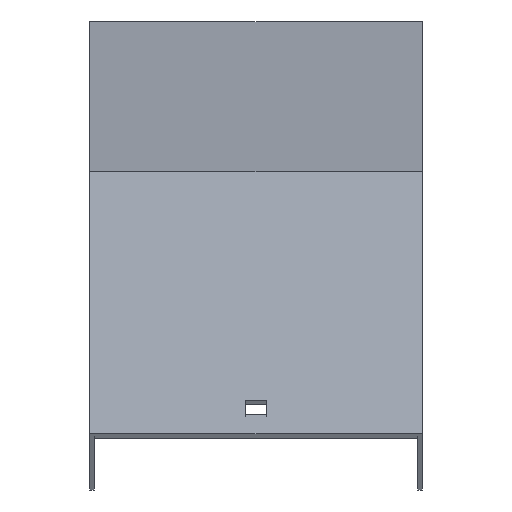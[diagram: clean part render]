
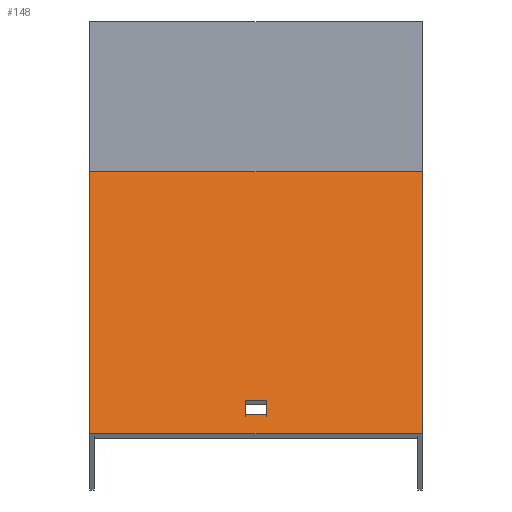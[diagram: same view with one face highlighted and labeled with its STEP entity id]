
A CAD part, top view. The second image highlights one B-rep face of the part: STEP entity #148.
In plain terms, the highlighted planar face has unit normal (0, 0.866, 0.5).
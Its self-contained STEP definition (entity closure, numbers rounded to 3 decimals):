
#7 = ORIENTED_EDGE ( 'NONE', *, *, #587, .T. ) ;
#32 = CARTESIAN_POINT ( 'NONE',  ( 3.25, -97.473, 459.415 ) ) ;
#36 = VECTOR ( 'NONE', #535, 1000. ) ;
#78 = CARTESIAN_POINT ( 'NONE',  ( 51.5, -26.656, 336.757 ) ) ;
#92 = LINE ( 'NONE', #818, #134 ) ;
#110 = EDGE_LOOP ( 'NONE', ( #7, #503, #305, #781 ) ) ;
#123 = ORIENTED_EDGE ( 'NONE', *, *, #292, .T. ) ;
#127 = LINE ( 'NONE', #835, #300 ) ;
#132 = CARTESIAN_POINT ( 'NONE',  ( -3.25, -27.973, 339.037 ) ) ;
#134 = VECTOR ( 'NONE', #341, 1000. ) ;
#148 = ADVANCED_FACE ( 'NONE', ( #253, #313 ), #180, .F. ) ;
#151 = VERTEX_POINT ( 'NONE', #511 ) ;
#168 = EDGE_CURVE ( 'NONE', #151, #656, #127, .T. ) ;
#175 = LINE ( 'NONE', #638, #406 ) ;
#180 = PLANE ( 'NONE',  #339 ) ;
#202 = VECTOR ( 'NONE', #333, 1000. ) ;
#221 = VERTEX_POINT ( 'NONE', #318 ) ;
#236 = EDGE_CURVE ( 'NONE', #268, #839, #175, .T. ) ;
#253 = FACE_BOUND ( 'NONE', #791, .T. ) ;
#263 = CARTESIAN_POINT ( 'NONE',  ( 51.5, -27.973, 339.037 ) ) ;
#268 = VERTEX_POINT ( 'NONE', #855 ) ;
#284 = EDGE_CURVE ( 'NONE', #677, #268, #716, .T. ) ;
#286 = CARTESIAN_POINT ( 'NONE',  ( -51.5, -27.973, 339.037 ) ) ;
#292 = EDGE_CURVE ( 'NONE', #839, #221, #586, .T. ) ;
#300 = VECTOR ( 'NONE', #451, 1000. ) ;
#305 = ORIENTED_EDGE ( 'NONE', *, *, #422, .F. ) ;
#313 = FACE_OUTER_BOUND ( 'NONE', #110, .T. ) ;
#315 = CARTESIAN_POINT ( 'NONE',  ( 51.5, -27.973, 339.037 ) ) ;
#318 = CARTESIAN_POINT ( 'NONE',  ( 3.25, -101.973, 467.209 ) ) ;
#323 = DIRECTION ( 'NONE',  ( 0., -0.5, 0.866 ) ) ;
#333 = DIRECTION ( 'NONE',  ( -1., 0., 0. ) ) ;
#339 = AXIS2_PLACEMENT_3D ( 'NONE', #315, #575, #572 ) ;
#341 = DIRECTION ( 'NONE',  ( -1., 0., 0. ) ) ;
#363 = VECTOR ( 'NONE', #609, 1000. ) ;
#389 = ORIENTED_EDGE ( 'NONE', *, *, #801, .T. ) ;
#401 = CARTESIAN_POINT ( 'NONE',  ( 51.5, -101.973, 467.209 ) ) ;
#406 = VECTOR ( 'NONE', #702, 1000. ) ;
#418 = VECTOR ( 'NONE', #323, 1000. ) ;
#422 = EDGE_CURVE ( 'NONE', #441, #151, #840, .T. ) ;
#424 = DIRECTION ( 'NONE',  ( 0., -0.5, 0.866 ) ) ;
#426 = CARTESIAN_POINT ( 'NONE',  ( -3.25, -101.973, 467.209 ) ) ;
#441 = VERTEX_POINT ( 'NONE', #78 ) ;
#444 = VECTOR ( 'NONE', #424, 1000. ) ;
#451 = DIRECTION ( 'NONE',  ( -1., 0., 0. ) ) ;
#494 = CARTESIAN_POINT ( 'NONE',  ( -51.5, -107.973, 477.601 ) ) ;
#497 = EDGE_CURVE ( 'NONE', #441, #666, #92, .T. ) ;
#503 = ORIENTED_EDGE ( 'NONE', *, *, #168, .F. ) ;
#511 = CARTESIAN_POINT ( 'NONE',  ( 51.5, -107.973, 477.601 ) ) ;
#526 = ORIENTED_EDGE ( 'NONE', *, *, #236, .T. ) ;
#535 = DIRECTION ( 'NONE',  ( 0., -0.5, 0.866 ) ) ;
#572 = DIRECTION ( 'NONE',  ( 0., 0.5, -0.866 ) ) ;
#575 = DIRECTION ( 'NONE',  ( 0., -0.866, -0.5 ) ) ;
#586 = LINE ( 'NONE', #850, #36 ) ;
#587 = EDGE_CURVE ( 'NONE', #666, #656, #737, .T. ) ;
#609 = DIRECTION ( 'NONE',  ( 0., 0.5, -0.866 ) ) ;
#630 = CARTESIAN_POINT ( 'NONE',  ( -51.5, -26.656, 336.757 ) ) ;
#638 = CARTESIAN_POINT ( 'NONE',  ( 51.5, -97.473, 459.415 ) ) ;
#656 = VERTEX_POINT ( 'NONE', #494 ) ;
#666 = VERTEX_POINT ( 'NONE', #630 ) ;
#677 = VERTEX_POINT ( 'NONE', #426 ) ;
#702 = DIRECTION ( 'NONE',  ( 1., 0., 0. ) ) ;
#703 = ORIENTED_EDGE ( 'NONE', *, *, #284, .T. ) ;
#716 = LINE ( 'NONE', #132, #363 ) ;
#737 = LINE ( 'NONE', #286, #444 ) ;
#781 = ORIENTED_EDGE ( 'NONE', *, *, #497, .T. ) ;
#791 = EDGE_LOOP ( 'NONE', ( #526, #123, #389, #703 ) ) ;
#801 = EDGE_CURVE ( 'NONE', #221, #677, #854, .T. ) ;
#818 = CARTESIAN_POINT ( 'NONE',  ( 51.5, -26.656, 336.757 ) ) ;
#835 = CARTESIAN_POINT ( 'NONE',  ( 51.5, -107.973, 477.601 ) ) ;
#839 = VERTEX_POINT ( 'NONE', #32 ) ;
#840 = LINE ( 'NONE', #263, #418 ) ;
#850 = CARTESIAN_POINT ( 'NONE',  ( 3.25, -27.973, 339.037 ) ) ;
#854 = LINE ( 'NONE', #401, #202 ) ;
#855 = CARTESIAN_POINT ( 'NONE',  ( -3.25, -97.473, 459.415 ) ) ;
